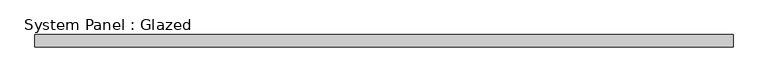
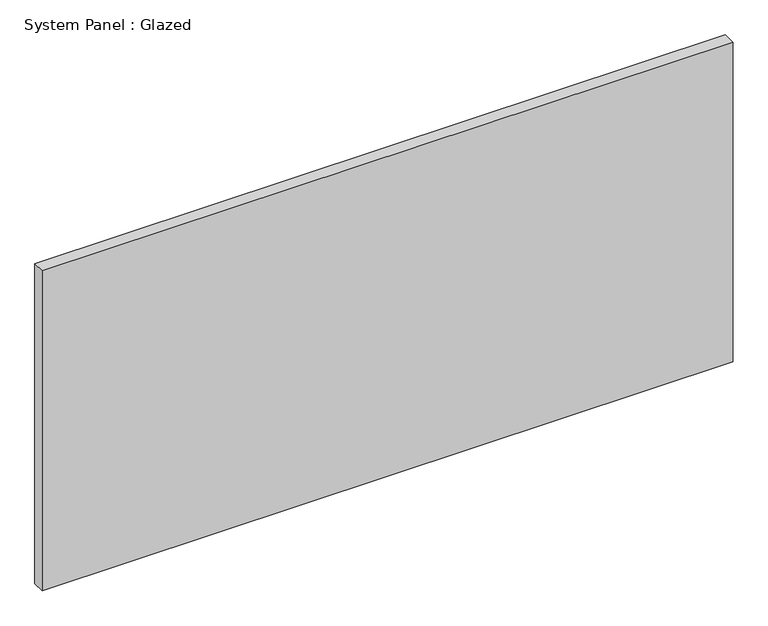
"""IFC4 building model written with IfcOpenShell, lengths in millimetres: plate geometry, System Panel : Glazed."""

from ifc_helpers import new_model, si_unit, origin, origin_with_axes, place, context, project, spatial, polyline, outline, extrude, source, transform, mapped, element, save


def system_panel_glazed_43c0bd6e(model_context):
    return source(origin(), model_context, "Body", "SweptSolid", [
        extrude(outline(polyline([(707.3194444, 19.05), (-707.3194444, 19.05), (-707.3194444, 44.45), (707.3194444, 44.45), (707.3194444, 19.05)])), origin_with_axes(), (0.0, 0.0, 1.0), 692.15),
    ])


if __name__ == "__main__":
    model = new_model("IFC4")
    model_context = context("Model", 3, world=origin())
    ifc_project = project(units=[si_unit("LENGTHUNIT", "METRE", prefix="MILLI")], contexts=[model_context])
    site = spatial("IfcSite", under=ifc_project)
    building = spatial("IfcBuilding", under=site)
    placement = place(None, origin())
    system_panel_glazed_shape = system_panel_glazed_43c0bd6e(model_context)
    element("IfcPlate", 1, ObjectType="System Panel : Glazed", at=placement, inside=building, context=model_context, shape_type="MappedRepresentation", body=[
        mapped(system_panel_glazed_shape, transform((0.0, 0.0, 0.0), x_axis=(1.0, 0.0, 0.0), y_axis=(0.0, 1.0, 0.0), z_axis=(0.0, 0.0, 1.0))),
    ])
    save(model, "model.ifc")
